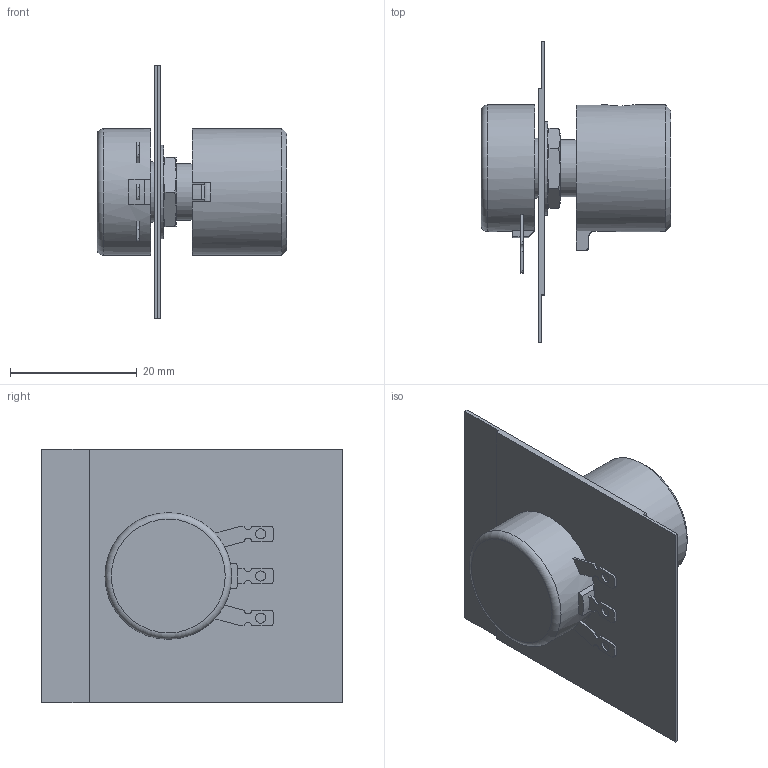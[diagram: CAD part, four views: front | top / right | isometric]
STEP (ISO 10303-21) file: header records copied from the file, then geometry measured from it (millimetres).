
FILE_DESCRIPTION(/* description */ ('STEP AP203'),/* implementation_level */ '2;1');
FILE_NAME(/* name */ 'PAVR-20KZ',/* time_stamp */ '2026-10-01T11:50:31+02:00',/* author */ ('License CC BY-ND 4.0'),/* organization */ ('CADENAS'),/* preprocessor_version */ 'ST-DEVELOPER v20',/* originating_system */ 'PARTsolutions',/* authorisation */ ' ');
FILE_SCHEMA (('CONFIG_CONTROL_DESIGN'));
Length unit declared in the file: millimetre
Products named in the file (1): PAVR-20KZ
Bounding box: 30 x 47.5 x 40 mm (x, y, z)
Volume: 9421.6 mm3; surface area: 6797.8 mm2
Topology: 1 solids, 1 shells, 97 faces, 239 edges, 154 vertices
Faces by surface type: plane 54, cylinder 24, cone 16, torus 3
Full cylindrical faces by diameter (mm): 1.6 x3, 3 x1, 3.242 x1, 9 x1, 9.5 x1, 14.8 x1, 20 x2
Entity records: 2820 total; most frequent: CARTESIAN_POINT 570, DIRECTION 458, ORIENTED_EDGE 440, EDGE_CURVE 220, AXIS2_PLACEMENT_3D 171, VERTEX_POINT 150, FACE_BOUND 128, EDGE_LOOP 127
